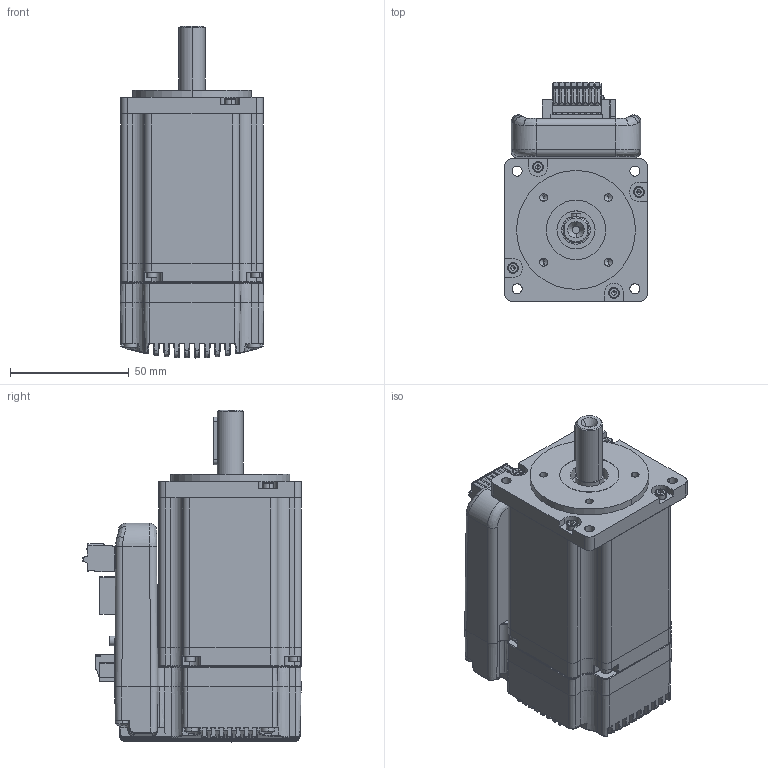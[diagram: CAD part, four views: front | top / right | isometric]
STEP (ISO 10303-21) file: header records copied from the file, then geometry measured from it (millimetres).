
FILE_DESCRIPTION (( 'STEP AP203' ), '1' );
FILE_NAME ('iHSV60-30-20-36-RC.STEP', '2019-12-07T06:37:54', ( 'USER-' ), ( 'MS' ), 'SwSTEP 2.0', 'SolidWorks 2015', '' );
FILE_SCHEMA (( 'CONFIG_CONTROL_DESIGN' ));
Length unit declared in the file: millimetre
Products named in the file (8): hexagon socket head cap screws gb_GB_FASTENER_SCREWS_HSHCS M2.5X4-N; cross recessed pan head screws gb_GB_CROSS_SCREWS_TYPE1 M3X4-4  H type-N; 4X20邧埴瑩; iHSV60-30-20-36-RC; 60珨极趙儂旯63mm遵40mm; 60一体化上盖7mm11x30键槽4x20法兰50x3法兰面带M4螺纹孔; 60一体化下盖8mm宽40mm带螺丝避位; iHSS60-RC珨极趙綴裔31.68x54.6x92.08
Assembly tree (19 placements, depth 2):
  iHSV60-30-20-36-RC
    60珨极趙儂旯63mm遵40mm
    60一体化上盖7mm11x30键槽4x20法兰50x3法兰面带M4螺纹孔
    60一体化下盖8mm宽40mm带螺丝避位
    iHSS60-RC珨极趙綴裔31.68x54.6x92.08
    hexagon socket head cap screws gb_GB_FASTENER_SCREWS_HSHCS M2.5X4-N  x8
    cross recessed pan head screws gb_GB_CROSS_SCREWS_TYPE1 M3X4-4  H type-N  x6
    4X20邧埴瑩
Bounding box: 60.4 x 92.1 x 139.68 mm (x, y, z)
Volume: 332369.5 mm3; surface area: 116608 mm2
Topology: 21 solids, 26 shells, 2787 faces, 7420 edges, 4747 vertices
Faces by surface type: plane 1555, cylinder 783, bspline 235, cone 166, torus 28, sphere 20
Entity records: 93695 total; most frequent: CARTESIAN_POINT 31977, ORIENTED_EDGE 13356, DIRECTION 11544, EDGE_CURVE 6678, VERTEX_POINT 4296, LINE 4244, VECTOR 4244, AXIS2_PLACEMENT_3D 3650
